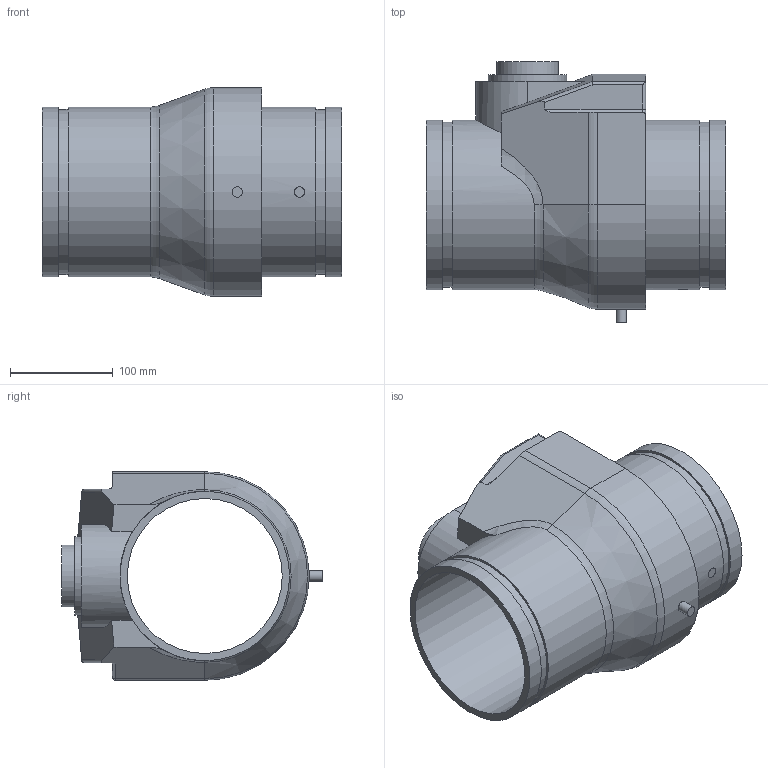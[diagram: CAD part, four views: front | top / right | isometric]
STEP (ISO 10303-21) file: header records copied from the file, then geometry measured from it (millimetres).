
FILE_DESCRIPTION(/* description */ ('VIC FIRELOCK CHECK VALVE SERIES 717','CAx-IF Rec.Pracs.---Representation and Presentation of Product Manufacturing Information (PMI)---4.0---2014-10-13'),/* implementation_level */ '2;1');
FILE_NAME(/* name */ 'C:\Users\Vjadhav\AppData\Roaming\Autodesk\ApplicationPlugins\Back Up\Victaulic_FP-FireLock_Valve Check_Series 717 (OGS)\Victaulic_FP-FireLock_Valve Check_06.0 (165.1) (150).stp',/* time_stamp */ '2020-07-17T15:00:43+06:00',/* author */ ('kkamble'),/* organization */ ('Victaulic'),/* preprocessor_version */ 'ST-DEVELOPER v17.2',/* originating_system */ 'Autodesk Inventor 2019',/* authorisation */ '');
FILE_SCHEMA (('AP242_MANAGED_MODEL_BASED_3D_ENGINEERING_MIM_LF { 1 0 10303 442 1 1 4 }'));
Length unit declared in the file: inch
Products named in the file (2): 717-06.0 (165.1); 717 - 06.0 (165.1)
Assembly tree (1 placements, depth 2):
  717-06.0 (165.1)
    717 - 06.0 (165.1)
Bounding box: 292.1 x 253.49 x 203.2 mm (x, y, z)
Volume: 3032046.8 mm3; surface area: 359318.8 mm2
Topology: 2 solids, 2 shells, 64 faces, 154 edges, 101 vertices
Faces by surface type: plane 30, cylinder 27, torus 4, bspline 2, cone 1
Full cylindrical faces by diameter (mm): 10.16 x1, 60.325 x1, 76.2 x1, 150.876 x1, 160.782 x2, 165.1 x4
Entity records: 2156 total; most frequent: CARTESIAN_POINT 444, DIRECTION 360, ORIENTED_EDGE 310, EDGE_CURVE 155, AXIS2_PLACEMENT_3D 144, VERTEX_POINT 103, EDGE_LOOP 74, LINE 72
